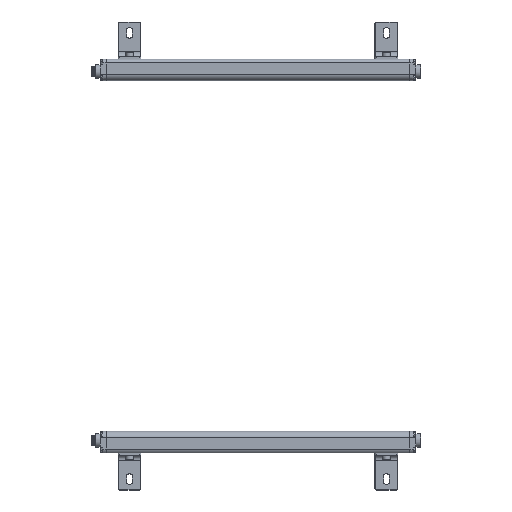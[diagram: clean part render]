
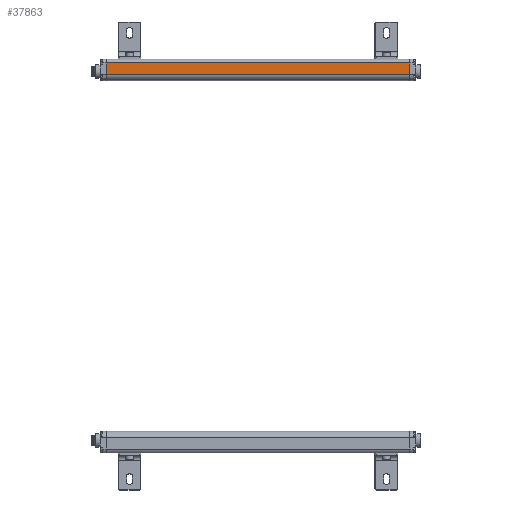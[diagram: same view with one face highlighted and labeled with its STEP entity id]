
A CAD part, left-side view. The second image highlights one B-rep face of the part: STEP entity #37863.
In plain terms, the highlighted planar face has unit normal (-1, 0, 0).
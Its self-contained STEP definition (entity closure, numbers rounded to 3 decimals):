
#3834 = CARTESIAN_POINT ( 'NONE',  ( -17.35, 385., 0. ) ) ;
#3913 = ORIENTED_EDGE ( 'NONE', *, *, #43453, .T. ) ;
#11723 = CARTESIAN_POINT ( 'NONE',  ( -17.35, 0., 8.225 ) ) ;
#11911 = LINE ( 'NONE', #11723, #18868 ) ;
#14292 = VECTOR ( 'NONE', #91886, 1000. ) ;
#18868 = VECTOR ( 'NONE', #133477, 1000. ) ;
#19995 = VERTEX_POINT ( 'NONE', #31157 ) ;
#21418 = EDGE_CURVE ( 'NONE', #19995, #88432, #45523, .T. ) ;
#26205 = CARTESIAN_POINT ( 'NONE',  ( -17.35, 0., 0. ) ) ;
#31157 = CARTESIAN_POINT ( 'NONE',  ( -17.35, 0., -6.175 ) ) ;
#32602 = AXIS2_PLACEMENT_3D ( 'NONE', #111753, #79317, #45569 ) ;
#34466 = PLANE ( 'NONE',  #32602 ) ;
#37863 = ADVANCED_FACE ( 'NONE', ( #127825 ), #34466, .T. ) ;
#39874 = EDGE_CURVE ( 'NONE', #127277, #88432, #11911, .T. ) ;
#43453 = EDGE_CURVE ( 'NONE', #106259, #19995, #82614, .T. ) ;
#45523 = LINE ( 'NONE', #26205, #14292 ) ;
#45569 = DIRECTION ( 'NONE',  ( 0., 0., 1. ) ) ;
#50335 = LINE ( 'NONE', #3834, #57184 ) ;
#53490 = CARTESIAN_POINT ( 'NONE',  ( -17.35, 385., -6.175 ) ) ;
#57184 = VECTOR ( 'NONE', #92692, 1000. ) ;
#66727 = CARTESIAN_POINT ( 'NONE',  ( -17.35, 385., 8.225 ) ) ;
#67264 = CARTESIAN_POINT ( 'NONE',  ( -17.35, 0., -6.175 ) ) ;
#67963 = ORIENTED_EDGE ( 'NONE', *, *, #83211, .F. ) ;
#79317 = DIRECTION ( 'NONE',  ( -1., 0., 0. ) ) ;
#82614 = LINE ( 'NONE', #67264, #99955 ) ;
#83211 = EDGE_CURVE ( 'NONE', #106259, #127277, #50335, .T. ) ;
#88432 = VERTEX_POINT ( 'NONE', #110320 ) ;
#91886 = DIRECTION ( 'NONE',  ( 0., 0., 1. ) ) ;
#92692 = DIRECTION ( 'NONE',  ( 0., 0., 1. ) ) ;
#99955 = VECTOR ( 'NONE', #122371, 1000. ) ;
#102949 = ORIENTED_EDGE ( 'NONE', *, *, #21418, .T. ) ;
#106259 = VERTEX_POINT ( 'NONE', #53490 ) ;
#108136 = ORIENTED_EDGE ( 'NONE', *, *, #39874, .F. ) ;
#110320 = CARTESIAN_POINT ( 'NONE',  ( -17.35, 0., 8.225 ) ) ;
#111753 = CARTESIAN_POINT ( 'NONE',  ( -17.35, 0., -6.175 ) ) ;
#118432 = EDGE_LOOP ( 'NONE', ( #3913, #102949, #108136, #67963 ) ) ;
#122371 = DIRECTION ( 'NONE',  ( 0., -1., 0. ) ) ;
#127277 = VERTEX_POINT ( 'NONE', #66727 ) ;
#127825 = FACE_OUTER_BOUND ( 'NONE', #118432, .T. ) ;
#133477 = DIRECTION ( 'NONE',  ( 0., -1., 0. ) ) ;
